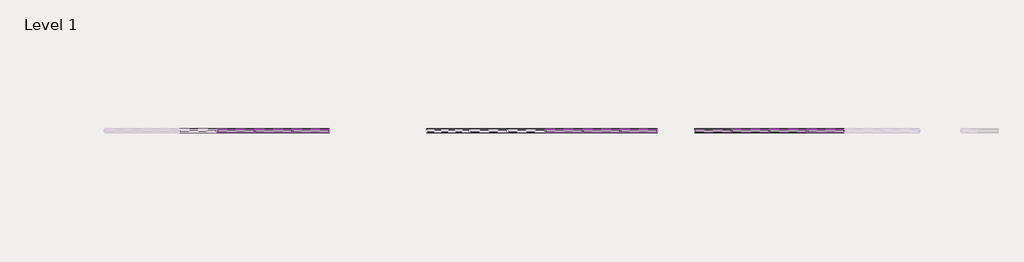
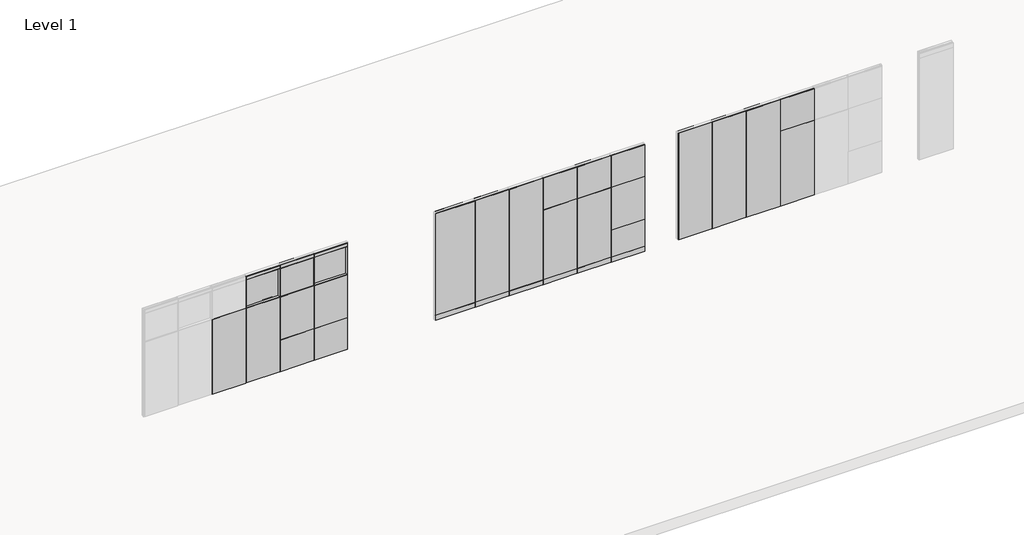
# One storey, part 15 of 22: 104 proxies.
"""IFC4 building model written with IfcOpenShell, lengths in millimetres."""

from ifc_helpers import new_model, si_unit, origin, place, context, project, spatial, transform, mapped, element, save
from components import fascia_teknion_ceiling_and_base_fpb1_33541465, fascia_teknion_ceiling_and_base_fpb1_cfc01414, fascia_teknion_ceiling_and_base_fpb1_a659cb20, fascia_teknion_ceiling_and_base_fpb1_658eb9e8, fascia_teknion_ceiling_and_base_fpb1_dc8595db, fascia_teknion_ceiling_and_base_fpb1_8b8bf328, fascia_teknion_ceiling_and_base_fpb1_c09701a2, fascia_teknion_ceiling_and_base_fpb1_cd47c96b, fascia_teknion_ceiling_and_base_fpc_0fdf7194, fascia_teknion_ceiling_and_base_fpc_b0ac7cd3, frame_teknion_horizontal_rail_5872ae1a, frame_teknion_horizontal_rail_46ee653b, frame_teknion_horizontal_rail_915d0f1b, glass_fascia_74ba01bb, glass_fascia_b43ce2ad, glass_fascia_649ace3c, level_ii_d92933f0, level_ii_5838736d, level_ii_d9937d3a, level_ii_09c6d2e8, level_ii_766fe766, level_ii_d745e7d9, level_ii_52e50c64, monolithic_level_i_61e75e15, monolithic_level_i_13c59c03, monolithic_level_i_604a00d2, monolithic_level_i_9525b381, monolithic_level_i_5f1d8d04, monolithic_level_i_f301c96f, monolithic_level_i_8e8b46f9, segmented_monolithic_level_i_26a9d159, segmented_monolithic_level_i_932c30e3, segmented_monolithic_level_i_a660c2bd, segmented_monolithic_level_i_f0d80afd, segmented_monolithic_level_i_954095a9, segmented_monolithic_level_ii_ef75357c, segmented_monolithic_level_ii_062cb124, working_wall_monolithic_level_i_dc7e04ae, working_wall_monolithic_level_i_f3196e79, working_wall_monolithic_level_i_c6955959, working_wall_monolithic_level_i_9d4bea93, working_wall_monolithic_level_i_ddf61f7f, working_wall_monolithic_level_i_49ea217e, working_wall_monolithic_level_i_39047d6b, working_wall_monolithic_level_iii_b79156b4, working_wall_monolithic_level_iii_e35548a4

model = new_model("IFC4")

# Units and contexts
model_context = context("Model", 3, world=origin())
ifc_project = project(units=[si_unit("LENGTHUNIT", "METRE", prefix="MILLI")], contexts=[model_context])

# Site, building, storey
site = spatial("IfcSite", under=ifc_project)
building = spatial("IfcBuilding", under=site)
storey = spatial("IfcBuildingStorey", under=building, Name="Level 1", Elevation=0.0)

# Proxies
placement = place(None, origin())
fascia_teknion_ceiling_and_base_fpb1_shape = fascia_teknion_ceiling_and_base_fpb1_33541465(model_context)
element("IfcBuildingElementProxy", 1, Name="Fascia-Teknion-Ceiling_and_Base : FPB1", ObjectType="Fascia-Teknion-Ceiling_and_Base : FPB1", at=placement, inside=storey, context=model_context, shape_type="MappedRepresentation", body=[
    mapped(fascia_teknion_ceiling_and_base_fpb1_shape, transform((56550.0272772, 1843.3402105, 15.875), x_axis=(1.0, 0.0, 0.0), y_axis=(0.0, 1.0, 0.0), z_axis=(0.0, 0.0, 1.0))),
])
fascia_teknion_ceiling_and_base_fpb1_2_shape = fascia_teknion_ceiling_and_base_fpb1_cfc01414(model_context)
element("IfcBuildingElementProxy", 2, Name="Fascia-Teknion-Ceiling_and_Base : FPB1", ObjectType="Fascia-Teknion-Ceiling_and_Base : FPB1", at=placement, inside=storey, context=model_context, shape_type="MappedRepresentation", body=[
    mapped(fascia_teknion_ceiling_and_base_fpb1_2_shape, transform((56550.0272772, 1781.3642105, 15.875), x_axis=(1.0, 0.0, 0.0), y_axis=(0.0, 1.0, 0.0), z_axis=(0.0, 0.0, 1.0))),
])
fascia_teknion_ceiling_and_base_fpb1_3_shape = fascia_teknion_ceiling_and_base_fpb1_a659cb20(model_context)
element("IfcBuildingElementProxy", 3, Name="Fascia-Teknion-Ceiling_and_Base : FPB1", ObjectType="Fascia-Teknion-Ceiling_and_Base : FPB1", at=placement, inside=storey, context=model_context, shape_type="MappedRepresentation", body=[
    mapped(fascia_teknion_ceiling_and_base_fpb1_3_shape, transform((54728.2221991, 1843.3402105, 15.875), x_axis=(1.0, 0.0, 0.0), y_axis=(0.0, 1.0, 0.0), z_axis=(0.0, 0.0, 1.0))),
])
element("IfcBuildingElementProxy", 4, Name="Fascia-Teknion-Ceiling_and_Base : FPB1", ObjectType="Fascia-Teknion-Ceiling_and_Base : FPB1", at=placement, inside=storey, context=model_context, shape_type="MappedRepresentation", body=[
    mapped(fascia_teknion_ceiling_and_base_fpb1_3_shape, transform((55642.6221991, 1843.3402105, 15.875), x_axis=(1.0, 0.0, 0.0), y_axis=(0.0, 1.0, 0.0), z_axis=(0.0, 0.0, 1.0))),
])
element("IfcBuildingElementProxy", 5, Name="Fascia-Teknion-Ceiling_and_Base : FPB1", ObjectType="Fascia-Teknion-Ceiling_and_Base : FPB1", at=placement, inside=storey, context=model_context, shape_type="MappedRepresentation", body=[
    mapped(fascia_teknion_ceiling_and_base_fpb1_3_shape, transform((52899.4221991, 1843.3402105, 15.875), x_axis=(1.0, 0.0, 0.0), y_axis=(0.0, 1.0, 0.0), z_axis=(0.0, 0.0, 1.0))),
])
element("IfcBuildingElementProxy", 6, Name="Fascia-Teknion-Ceiling_and_Base : FPB1", ObjectType="Fascia-Teknion-Ceiling_and_Base : FPB1", at=placement, inside=storey, context=model_context, shape_type="MappedRepresentation", body=[
    mapped(fascia_teknion_ceiling_and_base_fpb1_3_shape, transform((53813.8221991, 1843.3402105, 15.875), x_axis=(1.0, 0.0, 0.0), y_axis=(0.0, 1.0, 0.0), z_axis=(0.0, 0.0, 1.0))),
])
fascia_teknion_ceiling_and_base_fpb1_4_shape = fascia_teknion_ceiling_and_base_fpb1_658eb9e8(model_context)
element("IfcBuildingElementProxy", 7, Name="Fascia-Teknion-Ceiling_and_Base : FPB1", ObjectType="Fascia-Teknion-Ceiling_and_Base : FPB1", at=placement, inside=storey, context=model_context, shape_type="MappedRepresentation", body=[
    mapped(fascia_teknion_ceiling_and_base_fpb1_4_shape, transform((54728.2221991, 1781.3642105, 15.875), x_axis=(1.0, 0.0, 0.0), y_axis=(0.0, 1.0, 0.0), z_axis=(0.0, 0.0, 1.0))),
])
element("IfcBuildingElementProxy", 8, Name="Fascia-Teknion-Ceiling_and_Base : FPB1", ObjectType="Fascia-Teknion-Ceiling_and_Base : FPB1", at=placement, inside=storey, context=model_context, shape_type="MappedRepresentation", body=[
    mapped(fascia_teknion_ceiling_and_base_fpb1_4_shape, transform((55642.6221991, 1781.3642105, 15.875), x_axis=(1.0, 0.0, 0.0), y_axis=(0.0, 1.0, 0.0), z_axis=(0.0, 0.0, 1.0))),
])
element("IfcBuildingElementProxy", 9, Name="Fascia-Teknion-Ceiling_and_Base : FPB1", ObjectType="Fascia-Teknion-Ceiling_and_Base : FPB1", at=placement, inside=storey, context=model_context, shape_type="MappedRepresentation", body=[
    mapped(fascia_teknion_ceiling_and_base_fpb1_4_shape, transform((52899.4221991, 1781.3642105, 15.875), x_axis=(1.0, 0.0, 0.0), y_axis=(0.0, 1.0, 0.0), z_axis=(0.0, 0.0, 1.0))),
])
element("IfcBuildingElementProxy", 10, Name="Fascia-Teknion-Ceiling_and_Base : FPB1", ObjectType="Fascia-Teknion-Ceiling_and_Base : FPB1", at=placement, inside=storey, context=model_context, shape_type="MappedRepresentation", body=[
    mapped(fascia_teknion_ceiling_and_base_fpb1_4_shape, transform((53813.8221991, 1781.3642105, 15.875), x_axis=(1.0, 0.0, 0.0), y_axis=(0.0, 1.0, 0.0), z_axis=(0.0, 0.0, 1.0))),
])
fascia_teknion_ceiling_and_base_fpb1_5_shape = fascia_teknion_ceiling_and_base_fpb1_dc8595db(model_context)
element("IfcBuildingElementProxy", 11, Name="Fascia-Teknion-Ceiling_and_Base : FPB1", ObjectType="Fascia-Teknion-Ceiling_and_Base : FPB1", at=placement, inside=storey, context=model_context, shape_type="MappedRepresentation", body=[
    mapped(fascia_teknion_ceiling_and_base_fpb1_5_shape, transform((51915.817121, 1781.3642105, 15.875), x_axis=(1.0, 0.0, 0.0), y_axis=(0.0, 1.0, 0.0), z_axis=(0.0, 0.0, 1.0))),
])
fascia_teknion_ceiling_and_base_fpb1_6_shape = fascia_teknion_ceiling_and_base_fpb1_8b8bf328(model_context)
element("IfcBuildingElementProxy", 12, Name="Fascia-Teknion-Ceiling_and_Base : FPB1", ObjectType="Fascia-Teknion-Ceiling_and_Base : FPB1", at=placement, inside=storey, context=model_context, shape_type="MappedRepresentation", body=[
    mapped(fascia_teknion_ceiling_and_base_fpb1_6_shape, transform((51915.817121, 1843.3402105, 15.875), x_axis=(1.0, 0.0, 0.0), y_axis=(0.0, 1.0, 0.0), z_axis=(0.0, 0.0, 1.0))),
])
fascia_teknion_ceiling_and_base_fpb1_7_shape = fascia_teknion_ceiling_and_base_fpb1_c09701a2(model_context)
element("IfcBuildingElementProxy", 13, Name="Fascia-Teknion-Ceiling_and_Base : FPC", ObjectType="Fascia-Teknion-Ceiling_and_Base : FPC", at=placement, inside=storey, context=model_context, shape_type="MappedRepresentation", body=[
    mapped(fascia_teknion_ceiling_and_base_fpb1_7_shape, transform((48570.2009696, 1781.3642105, 2950.845), x_axis=(1.0, 0.0, 0.0), y_axis=(0.0, 1.0, 0.0), z_axis=(0.0, 0.0, 1.0))),
])
fascia_teknion_ceiling_and_base_fpb1_8_shape = fascia_teknion_ceiling_and_base_fpb1_cd47c96b(model_context)
element("IfcBuildingElementProxy", 14, Name="Fascia-Teknion-Ceiling_and_Base : FPC", ObjectType="Fascia-Teknion-Ceiling_and_Base : FPC", at=placement, inside=storey, context=model_context, shape_type="MappedRepresentation", body=[
    mapped(fascia_teknion_ceiling_and_base_fpb1_8_shape, transform((48570.2009696, 1843.3402105, 2950.845), x_axis=(1.0, 0.0, 0.0), y_axis=(0.0, 1.0, 0.0), z_axis=(0.0, 0.0, 1.0))),
])
fascia_teknion_ceiling_and_base_fpc_shape = fascia_teknion_ceiling_and_base_fpc_0fdf7194(model_context)
element("IfcBuildingElementProxy", 15, Name="Fascia-Teknion-Ceiling_and_Base : FPC", ObjectType="Fascia-Teknion-Ceiling_and_Base : FPC", at=placement, inside=storey, context=model_context, shape_type="MappedRepresentation", body=[
    mapped(fascia_teknion_ceiling_and_base_fpc_shape, transform((47662.7958915, 1781.3642105, 2950.845), x_axis=(1.0, 0.0, 0.0), y_axis=(0.0, 1.0, 0.0), z_axis=(0.0, 0.0, 1.0))),
])
element("IfcBuildingElementProxy", 16, Name="Fascia-Teknion-Ceiling_and_Base : FPC", ObjectType="Fascia-Teknion-Ceiling_and_Base : FPC", at=placement, inside=storey, context=model_context, shape_type="MappedRepresentation", body=[
    mapped(fascia_teknion_ceiling_and_base_fpc_shape, transform((46748.3958915, 1781.3642105, 2950.845), x_axis=(1.0, 0.0, 0.0), y_axis=(0.0, 1.0, 0.0), z_axis=(0.0, 0.0, 1.0))),
])
fascia_teknion_ceiling_and_base_fpc_2_shape = fascia_teknion_ceiling_and_base_fpc_b0ac7cd3(model_context)
element("IfcBuildingElementProxy", 17, Name="Fascia-Teknion-Ceiling_and_Base : FPC", ObjectType="Fascia-Teknion-Ceiling_and_Base : FPC", at=placement, inside=storey, context=model_context, shape_type="MappedRepresentation", body=[
    mapped(fascia_teknion_ceiling_and_base_fpc_2_shape, transform((47662.7958915, 1843.3402105, 2950.845), x_axis=(1.0, 0.0, 0.0), y_axis=(0.0, 1.0, 0.0), z_axis=(0.0, 0.0, 1.0))),
])
element("IfcBuildingElementProxy", 18, Name="Fascia-Teknion-Ceiling_and_Base : FPC", ObjectType="Fascia-Teknion-Ceiling_and_Base : FPC", at=placement, inside=storey, context=model_context, shape_type="MappedRepresentation", body=[
    mapped(fascia_teknion_ceiling_and_base_fpc_2_shape, transform((46748.3958915, 1843.3402105, 2950.845), x_axis=(1.0, 0.0, 0.0), y_axis=(0.0, 1.0, 0.0), z_axis=(0.0, 0.0, 1.0))),
])
frame_teknion_horizontal_rail_shape = frame_teknion_horizontal_rail_5872ae1a(model_context)
element("IfcBuildingElementProxy", 19, Name="Frame-Teknion-Horizontal_Rail : FPKK", ObjectType="Frame-Teknion-Horizontal_Rail : FPKK", at=placement, inside=storey, context=model_context, shape_type="MappedRepresentation", body=[
    mapped(frame_teknion_horizontal_rail_shape, transform((56550.0272772, 1812.3522105, 917.575), x_axis=(1.0, 0.0, 0.0), y_axis=(0.0, 1.0, 0.0), z_axis=(0.0, 0.0, 1.0))),
])
element("IfcBuildingElementProxy", 20, Name="Frame-Teknion-Horizontal_Rail : FPKK", ObjectType="Frame-Teknion-Horizontal_Rail : FPKK", at=placement, inside=storey, context=model_context, shape_type="MappedRepresentation", body=[
    mapped(frame_teknion_horizontal_rail_shape, transform((56550.0272772, 1812.3522105, 151.257), x_axis=(1.0, 0.0, 0.0), y_axis=(0.0, 1.0, 0.0), z_axis=(0.0, 0.0, 1.0))),
])
element("IfcBuildingElementProxy", 21, Name="Frame-Teknion-Horizontal_Rail : FPKK", ObjectType="Frame-Teknion-Horizontal_Rail : FPKK", at=placement, inside=storey, context=model_context, shape_type="MappedRepresentation", body=[
    mapped(frame_teknion_horizontal_rail_shape, transform((56550.0272772, 1812.3522105, 2136.775), x_axis=(1.0, 0.0, 0.0), y_axis=(0.0, 1.0, 0.0), z_axis=(0.0, 0.0, 1.0))),
])
element("IfcBuildingElementProxy", 22, Name="Frame-Teknion-Horizontal_Rail : FPKK", ObjectType="Frame-Teknion-Horizontal_Rail : FPKK", at=placement, inside=storey, context=model_context, shape_type="MappedRepresentation", body=[
    mapped(frame_teknion_horizontal_rail_shape, transform((58362.0641382, 1812.3522105, 2136.775), x_axis=(1.0, 0.0, 0.0), y_axis=(0.0, 1.0, 0.0), z_axis=(0.0, 0.0, 1.0))),
])
element("IfcBuildingElementProxy", 23, Name="Frame-Teknion-Horizontal_Rail : FPKK", ObjectType="Frame-Teknion-Horizontal_Rail : FPKK", at=placement, inside=storey, context=model_context, shape_type="MappedRepresentation", body=[
    mapped(frame_teknion_horizontal_rail_shape, transform((58362.0641382, 1812.3522105, 151.257), x_axis=(1.0, 0.0, 0.0), y_axis=(0.0, 1.0, 0.0), z_axis=(0.0, 0.0, 1.0))),
])
element("IfcBuildingElementProxy", 24, Name="Frame-Teknion-Horizontal_Rail : FPKK", ObjectType="Frame-Teknion-Horizontal_Rail : FPKK", at=placement, inside=storey, context=model_context, shape_type="MappedRepresentation", body=[
    mapped(frame_teknion_horizontal_rail_shape, transform((58362.0641382, 1812.3522105, 2898.3305), x_axis=(1.0, 0.0, 0.0), y_axis=(0.0, 1.0, 0.0), z_axis=(0.0, 0.0, 1.0))),
])
element("IfcBuildingElementProxy", 25, Name="Frame-Teknion-Horizontal_Rail : FPKK", ObjectType="Frame-Teknion-Horizontal_Rail : FPKK", at=placement, inside=storey, context=model_context, shape_type="MappedRepresentation", body=[
    mapped(frame_teknion_horizontal_rail_shape, transform((48570.2009696, 1812.3522105, 2136.775), x_axis=(1.0, 0.0, 0.0), y_axis=(0.0, 1.0, 0.0), z_axis=(0.0, 0.0, 1.0))),
])
element("IfcBuildingElementProxy", 26, Name="Frame-Teknion-Horizontal_Rail : FPKK", ObjectType="Frame-Teknion-Horizontal_Rail : FPKK", at=placement, inside=storey, context=model_context, shape_type="MappedRepresentation", body=[
    mapped(frame_teknion_horizontal_rail_shape, transform((48570.2009696, 1812.3522105, 2949.1305), x_axis=(1.0, 0.0, 0.0), y_axis=(0.0, 1.0, 0.0), z_axis=(0.0, 0.0, 1.0))),
])
element("IfcBuildingElementProxy", 27, Name="Frame-Teknion-Horizontal_Rail : FPKK", ObjectType="Frame-Teknion-Horizontal_Rail : FPKK", at=placement, inside=storey, context=model_context, shape_type="MappedRepresentation", body=[
    mapped(frame_teknion_horizontal_rail_shape, transform((48570.2009696, 1812.3522105, 917.575), x_axis=(1.0, 0.0, 0.0), y_axis=(0.0, 1.0, 0.0), z_axis=(0.0, 0.0, 1.0))),
])
frame_teknion_horizontal_rail_2_shape = frame_teknion_horizontal_rail_46ee653b(model_context)
element("IfcBuildingElementProxy", 28, Name="Frame-Teknion-Horizontal_Rail : FPKK", ObjectType="Frame-Teknion-Horizontal_Rail : FPKK", at=placement, inside=storey, context=model_context, shape_type="MappedRepresentation", body=[
    mapped(frame_teknion_horizontal_rail_2_shape, transform((52899.4221991, 1812.3522105, 917.575), x_axis=(1.0, 0.0, 0.0), y_axis=(0.0, 1.0, 0.0), z_axis=(0.0, 0.0, 1.0))),
])
element("IfcBuildingElementProxy", 29, Name="Frame-Teknion-Horizontal_Rail : FPKK", ObjectType="Frame-Teknion-Horizontal_Rail : FPKK", at=placement, inside=storey, context=model_context, shape_type="MappedRepresentation", body=[
    mapped(frame_teknion_horizontal_rail_2_shape, transform((52899.4221991, 1812.3522105, 151.257), x_axis=(1.0, 0.0, 0.0), y_axis=(0.0, 1.0, 0.0), z_axis=(0.0, 0.0, 1.0))),
])
element("IfcBuildingElementProxy", 30, Name="Frame-Teknion-Horizontal_Rail : FPKK", ObjectType="Frame-Teknion-Horizontal_Rail : FPKK", at=placement, inside=storey, context=model_context, shape_type="MappedRepresentation", body=[
    mapped(frame_teknion_horizontal_rail_2_shape, transform((53813.8221991, 1812.3522105, 917.575), x_axis=(1.0, 0.0, 0.0), y_axis=(0.0, 1.0, 0.0), z_axis=(0.0, 0.0, 1.0))),
])
element("IfcBuildingElementProxy", 31, Name="Frame-Teknion-Horizontal_Rail : FPKK", ObjectType="Frame-Teknion-Horizontal_Rail : FPKK", at=placement, inside=storey, context=model_context, shape_type="MappedRepresentation", body=[
    mapped(frame_teknion_horizontal_rail_2_shape, transform((53813.8221991, 1812.3522105, 151.257), x_axis=(1.0, 0.0, 0.0), y_axis=(0.0, 1.0, 0.0), z_axis=(0.0, 0.0, 1.0))),
])
element("IfcBuildingElementProxy", 32, Name="Frame-Teknion-Horizontal_Rail : FPKK", ObjectType="Frame-Teknion-Horizontal_Rail : FPKK", at=placement, inside=storey, context=model_context, shape_type="MappedRepresentation", body=[
    mapped(frame_teknion_horizontal_rail_2_shape, transform((54728.2221991, 1812.3522105, 151.257), x_axis=(1.0, 0.0, 0.0), y_axis=(0.0, 1.0, 0.0), z_axis=(0.0, 0.0, 1.0))),
])
element("IfcBuildingElementProxy", 33, Name="Frame-Teknion-Horizontal_Rail : FPKK", ObjectType="Frame-Teknion-Horizontal_Rail : FPKK", at=placement, inside=storey, context=model_context, shape_type="MappedRepresentation", body=[
    mapped(frame_teknion_horizontal_rail_2_shape, transform((55642.6221991, 1812.3522105, 151.257), x_axis=(1.0, 0.0, 0.0), y_axis=(0.0, 1.0, 0.0), z_axis=(0.0, 0.0, 1.0))),
])
element("IfcBuildingElementProxy", 34, Name="Frame-Teknion-Horizontal_Rail : FPKK", ObjectType="Frame-Teknion-Horizontal_Rail : FPKK", at=placement, inside=storey, context=model_context, shape_type="MappedRepresentation", body=[
    mapped(frame_teknion_horizontal_rail_2_shape, transform((54728.2221991, 1812.3522105, 2136.775), x_axis=(1.0, 0.0, 0.0), y_axis=(0.0, 1.0, 0.0), z_axis=(0.0, 0.0, 1.0))),
])
element("IfcBuildingElementProxy", 35, Name="Frame-Teknion-Horizontal_Rail : FPKK", ObjectType="Frame-Teknion-Horizontal_Rail : FPKK", at=placement, inside=storey, context=model_context, shape_type="MappedRepresentation", body=[
    mapped(frame_teknion_horizontal_rail_2_shape, transform((55642.6221991, 1812.3522105, 2136.775), x_axis=(1.0, 0.0, 0.0), y_axis=(0.0, 1.0, 0.0), z_axis=(0.0, 0.0, 1.0))),
])
element("IfcBuildingElementProxy", 36, Name="Frame-Teknion-Horizontal_Rail : FPKK", ObjectType="Frame-Teknion-Horizontal_Rail : FPKK", at=placement, inside=storey, context=model_context, shape_type="MappedRepresentation", body=[
    mapped(frame_teknion_horizontal_rail_2_shape, transform((59269.4692163, 1812.3522105, 2136.775), x_axis=(1.0, 0.0, 0.0), y_axis=(0.0, 1.0, 0.0), z_axis=(0.0, 0.0, 1.0))),
])
element("IfcBuildingElementProxy", 37, Name="Frame-Teknion-Horizontal_Rail : FPKK", ObjectType="Frame-Teknion-Horizontal_Rail : FPKK", at=placement, inside=storey, context=model_context, shape_type="MappedRepresentation", body=[
    mapped(frame_teknion_horizontal_rail_2_shape, transform((59269.4692163, 1812.3522105, 151.257), x_axis=(1.0, 0.0, 0.0), y_axis=(0.0, 1.0, 0.0), z_axis=(0.0, 0.0, 1.0))),
])
element("IfcBuildingElementProxy", 38, Name="Frame-Teknion-Horizontal_Rail : FPKK", ObjectType="Frame-Teknion-Horizontal_Rail : FPKK", at=placement, inside=storey, context=model_context, shape_type="MappedRepresentation", body=[
    mapped(frame_teknion_horizontal_rail_2_shape, transform((59269.4692163, 1812.3522105, 2898.3305), x_axis=(1.0, 0.0, 0.0), y_axis=(0.0, 1.0, 0.0), z_axis=(0.0, 0.0, 1.0))),
])
element("IfcBuildingElementProxy", 39, Name="Frame-Teknion-Horizontal_Rail : FPKK", ObjectType="Frame-Teknion-Horizontal_Rail : FPKK", at=placement, inside=storey, context=model_context, shape_type="MappedRepresentation", body=[
    mapped(frame_teknion_horizontal_rail_2_shape, transform((60183.8692163, 1812.3522105, 2136.775), x_axis=(1.0, 0.0, 0.0), y_axis=(0.0, 1.0, 0.0), z_axis=(0.0, 0.0, 1.0))),
])
element("IfcBuildingElementProxy", 40, Name="Frame-Teknion-Horizontal_Rail : FPKK", ObjectType="Frame-Teknion-Horizontal_Rail : FPKK", at=placement, inside=storey, context=model_context, shape_type="MappedRepresentation", body=[
    mapped(frame_teknion_horizontal_rail_2_shape, transform((60183.8692163, 1812.3522105, 151.257), x_axis=(1.0, 0.0, 0.0), y_axis=(0.0, 1.0, 0.0), z_axis=(0.0, 0.0, 1.0))),
])
element("IfcBuildingElementProxy", 41, Name="Frame-Teknion-Horizontal_Rail : FPKK", ObjectType="Frame-Teknion-Horizontal_Rail : FPKK", at=placement, inside=storey, context=model_context, shape_type="MappedRepresentation", body=[
    mapped(frame_teknion_horizontal_rail_2_shape, transform((60183.8692163, 1812.3522105, 2898.3305), x_axis=(1.0, 0.0, 0.0), y_axis=(0.0, 1.0, 0.0), z_axis=(0.0, 0.0, 1.0))),
])
element("IfcBuildingElementProxy", 42, Name="Frame-Teknion-Horizontal_Rail : FPKK", ObjectType="Frame-Teknion-Horizontal_Rail : FPKK", at=placement, inside=storey, context=model_context, shape_type="MappedRepresentation", body=[
    mapped(frame_teknion_horizontal_rail_2_shape, transform((61098.2692163, 1812.3522105, 2136.775), x_axis=(1.0, 0.0, 0.0), y_axis=(0.0, 1.0, 0.0), z_axis=(0.0, 0.0, 1.0))),
])
element("IfcBuildingElementProxy", 43, Name="Frame-Teknion-Horizontal_Rail : FPKK", ObjectType="Frame-Teknion-Horizontal_Rail : FPKK", at=placement, inside=storey, context=model_context, shape_type="MappedRepresentation", body=[
    mapped(frame_teknion_horizontal_rail_2_shape, transform((61098.2692163, 1812.3522105, 151.257), x_axis=(1.0, 0.0, 0.0), y_axis=(0.0, 1.0, 0.0), z_axis=(0.0, 0.0, 1.0))),
])
element("IfcBuildingElementProxy", 44, Name="Frame-Teknion-Horizontal_Rail : FPKK", ObjectType="Frame-Teknion-Horizontal_Rail : FPKK", at=placement, inside=storey, context=model_context, shape_type="MappedRepresentation", body=[
    mapped(frame_teknion_horizontal_rail_2_shape, transform((61098.2692163, 1812.3522105, 2898.3305), x_axis=(1.0, 0.0, 0.0), y_axis=(0.0, 1.0, 0.0), z_axis=(0.0, 0.0, 1.0))),
])
element("IfcBuildingElementProxy", 45, Name="Frame-Teknion-Horizontal_Rail : FPKK", ObjectType="Frame-Teknion-Horizontal_Rail : FPKK", at=placement, inside=storey, context=model_context, shape_type="MappedRepresentation", body=[
    mapped(frame_teknion_horizontal_rail_2_shape, transform((60183.8692163, 1812.3522105, 917.575), x_axis=(1.0, 0.0, 0.0), y_axis=(0.0, 1.0, 0.0), z_axis=(0.0, 0.0, 1.0))),
])
element("IfcBuildingElementProxy", 46, Name="Frame-Teknion-Horizontal_Rail : FPKK", ObjectType="Frame-Teknion-Horizontal_Rail : FPKK", at=placement, inside=storey, context=model_context, shape_type="MappedRepresentation", body=[
    mapped(frame_teknion_horizontal_rail_2_shape, transform((47662.7958915, 1812.3522105, 2136.775), x_axis=(1.0, 0.0, 0.0), y_axis=(0.0, 1.0, 0.0), z_axis=(0.0, 0.0, 1.0))),
])
element("IfcBuildingElementProxy", 47, Name="Frame-Teknion-Horizontal_Rail : FPKK", ObjectType="Frame-Teknion-Horizontal_Rail : FPKK", at=placement, inside=storey, context=model_context, shape_type="MappedRepresentation", body=[
    mapped(frame_teknion_horizontal_rail_2_shape, transform((47662.7958915, 1812.3522105, 2949.1305), x_axis=(1.0, 0.0, 0.0), y_axis=(0.0, 1.0, 0.0), z_axis=(0.0, 0.0, 1.0))),
])
element("IfcBuildingElementProxy", 48, Name="Frame-Teknion-Horizontal_Rail : FPKK", ObjectType="Frame-Teknion-Horizontal_Rail : FPKK", at=placement, inside=storey, context=model_context, shape_type="MappedRepresentation", body=[
    mapped(frame_teknion_horizontal_rail_2_shape, transform((46748.3958915, 1812.3522105, 2136.775), x_axis=(1.0, 0.0, 0.0), y_axis=(0.0, 1.0, 0.0), z_axis=(0.0, 0.0, 1.0))),
])
element("IfcBuildingElementProxy", 49, Name="Frame-Teknion-Horizontal_Rail : FPKK", ObjectType="Frame-Teknion-Horizontal_Rail : FPKK", at=placement, inside=storey, context=model_context, shape_type="MappedRepresentation", body=[
    mapped(frame_teknion_horizontal_rail_2_shape, transform((46748.3958915, 1812.3522105, 2949.1305), x_axis=(1.0, 0.0, 0.0), y_axis=(0.0, 1.0, 0.0), z_axis=(0.0, 0.0, 1.0))),
])
element("IfcBuildingElementProxy", 50, Name="Frame-Teknion-Horizontal_Rail : FPKK", ObjectType="Frame-Teknion-Horizontal_Rail : FPKK", at=placement, inside=storey, context=model_context, shape_type="MappedRepresentation", body=[
    mapped(frame_teknion_horizontal_rail_2_shape, transform((45833.9958915, 1812.3522105, 917.575), x_axis=(1.0, 0.0, 0.0), y_axis=(0.0, 1.0, 0.0), z_axis=(0.0, 0.0, 1.0))),
])
element("IfcBuildingElementProxy", 51, Name="Frame-Teknion-Horizontal_Rail : FPKK", ObjectType="Frame-Teknion-Horizontal_Rail : FPKK", at=placement, inside=storey, context=model_context, shape_type="MappedRepresentation", body=[
    mapped(frame_teknion_horizontal_rail_2_shape, transform((46748.3958915, 1812.3522105, 917.575), x_axis=(1.0, 0.0, 0.0), y_axis=(0.0, 1.0, 0.0), z_axis=(0.0, 0.0, 1.0))),
])
element("IfcBuildingElementProxy", 52, Name="Frame-Teknion-Horizontal_Rail : FPKK", ObjectType="Frame-Teknion-Horizontal_Rail : FPKK", at=placement, inside=storey, context=model_context, shape_type="MappedRepresentation", body=[
    mapped(frame_teknion_horizontal_rail_2_shape, transform((47662.7958915, 1812.3522105, 917.575), x_axis=(1.0, 0.0, 0.0), y_axis=(0.0, 1.0, 0.0), z_axis=(0.0, 0.0, 1.0))),
])
frame_teknion_horizontal_rail_3_shape = frame_teknion_horizontal_rail_915d0f1b(model_context)
element("IfcBuildingElementProxy", 53, Name="Frame-Teknion-Horizontal_Rail : FPKK", ObjectType="Frame-Teknion-Horizontal_Rail : FPKK", at=placement, inside=storey, context=model_context, shape_type="MappedRepresentation", body=[
    mapped(frame_teknion_horizontal_rail_3_shape, transform((51915.817121, 1812.3522105, 917.575), x_axis=(1.0, 0.0, 0.0), y_axis=(0.0, 1.0, 0.0), z_axis=(0.0, 0.0, 1.0))),
])
element("IfcBuildingElementProxy", 54, Name="Frame-Teknion-Horizontal_Rail : FPKK", ObjectType="Frame-Teknion-Horizontal_Rail : FPKK", at=placement, inside=storey, context=model_context, shape_type="MappedRepresentation", body=[
    mapped(frame_teknion_horizontal_rail_3_shape, transform((51915.817121, 1812.3522105, 151.257), x_axis=(1.0, 0.0, 0.0), y_axis=(0.0, 1.0, 0.0), z_axis=(0.0, 0.0, 1.0))),
])
glass_fascia_shape = glass_fascia_74ba01bb(model_context)
element("IfcBuildingElementProxy", 55, Name="Panel-Fascia-Teknion-Altos-Glass : Glass Fascia", ObjectType="Panel-Fascia-Teknion-Altos-Glass : Glass Fascia", at=placement, inside=storey, context=model_context, shape_type="MappedRepresentation", body=[
    mapped(glass_fascia_shape, transform((48570.2009696, 1812.3522105, 2136.775), x_axis=(1.0, 0.0, 0.0), y_axis=(0.0, 1.0, 0.0), z_axis=(0.0, 0.0, 1.0))),
])
glass_fascia_2_shape = glass_fascia_b43ce2ad(model_context)
element("IfcBuildingElementProxy", 56, Name="Panel-Fascia-Teknion-Altos-Glass : Glass Fascia", ObjectType="Panel-Fascia-Teknion-Altos-Glass : Glass Fascia", at=placement, inside=storey, context=model_context, shape_type="MappedRepresentation", body=[
    mapped(glass_fascia_2_shape, transform((47662.7958915, 1812.3522105, 2136.775), x_axis=(1.0, 0.0, 0.0), y_axis=(0.0, 1.0, 0.0), z_axis=(0.0, 0.0, 1.0))),
])
glass_fascia_3_shape = glass_fascia_649ace3c(model_context)
element("IfcBuildingElementProxy", 57, Name="Panel-Fascia-Teknion-Altos-Glass : Glass Fascia", ObjectType="Panel-Fascia-Teknion-Altos-Glass : Glass Fascia", at=placement, inside=storey, context=model_context, shape_type="MappedRepresentation", body=[
    mapped(glass_fascia_3_shape, transform((46748.3958915, 1812.3522105, 2136.775), x_axis=(1.0, 0.0, 0.0), y_axis=(0.0, 1.0, 0.0), z_axis=(0.0, 0.0, 1.0))),
])
level_ii_shape = level_ii_d92933f0(model_context)
element("IfcBuildingElementProxy", 58, Name="Panel-Fascia-Teknion-Altos-Standard : Level II", ObjectType="Panel-Fascia-Teknion-Altos-Standard : Level II", at=placement, inside=storey, context=model_context, shape_type="MappedRepresentation", body=[
    mapped(level_ii_shape, transform((56550.0272772, 1852.8652105, 917.575), x_axis=(1.0, 0.0, 0.0), y_axis=(0.0, 1.0, 0.0), z_axis=(0.0, 0.0, 1.0))),
])
level_ii_2_shape = level_ii_5838736d(model_context)
element("IfcBuildingElementProxy", 59, Name="Panel-Fascia-Teknion-Altos-Standard : Level II", ObjectType="Panel-Fascia-Teknion-Altos-Standard : Level II", at=placement, inside=storey, context=model_context, shape_type="MappedRepresentation", body=[
    mapped(level_ii_2_shape, transform((60183.8692163, 1852.8652105, 917.575), x_axis=(1.0, 0.0, 0.0), y_axis=(0.0, 1.0, 0.0), z_axis=(0.0, 0.0, 1.0))),
])
level_ii_3_shape = level_ii_d9937d3a(model_context)
element("IfcBuildingElementProxy", 60, Name="Panel-Fascia-Teknion-Altos-Standard : Level II", ObjectType="Panel-Fascia-Teknion-Altos-Standard : Level II", at=placement, inside=storey, context=model_context, shape_type="MappedRepresentation", body=[
    mapped(level_ii_3_shape, transform((56550.0272772, 1771.8392105, 917.575), x_axis=(1.0, 0.0, 0.0), y_axis=(0.0, 1.0, 0.0), z_axis=(0.0, 0.0, 1.0))),
])
level_ii_4_shape = level_ii_09c6d2e8(model_context)
element("IfcBuildingElementProxy", 61, Name="Panel-Fascia-Teknion-Altos-Standard : Level II", ObjectType="Panel-Fascia-Teknion-Altos-Standard : Level II", at=placement, inside=storey, context=model_context, shape_type="MappedRepresentation", body=[
    mapped(level_ii_4_shape, transform((45833.9958915, 1852.8652105, 917.575), x_axis=(1.0, 0.0, 0.0), y_axis=(0.0, 1.0, 0.0), z_axis=(0.0, 0.0, 1.0))),
])
element("IfcBuildingElementProxy", 62, Name="Panel-Fascia-Teknion-Altos-Standard : Level II", ObjectType="Panel-Fascia-Teknion-Altos-Standard : Level II", at=placement, inside=storey, context=model_context, shape_type="MappedRepresentation", body=[
    mapped(level_ii_4_shape, transform((46748.3958915, 1852.8652105, 917.575), x_axis=(1.0, 0.0, 0.0), y_axis=(0.0, 1.0, 0.0), z_axis=(0.0, 0.0, 1.0))),
])
element("IfcBuildingElementProxy", 63, Name="Panel-Fascia-Teknion-Altos-Standard : Level II", ObjectType="Panel-Fascia-Teknion-Altos-Standard : Level II", at=placement, inside=storey, context=model_context, shape_type="MappedRepresentation", body=[
    mapped(level_ii_4_shape, transform((47662.7958915, 1852.8652105, 917.575), x_axis=(1.0, 0.0, 0.0), y_axis=(0.0, 1.0, 0.0), z_axis=(0.0, 0.0, 1.0))),
])
level_ii_5_shape = level_ii_766fe766(model_context)
element("IfcBuildingElementProxy", 64, Name="Panel-Fascia-Teknion-Altos-Standard : Level II", ObjectType="Panel-Fascia-Teknion-Altos-Standard : Level II", at=placement, inside=storey, context=model_context, shape_type="MappedRepresentation", body=[
    mapped(level_ii_5_shape, transform((48570.2009696, 1771.8392105, 917.575), x_axis=(1.0, 0.0, 0.0), y_axis=(0.0, 1.0, 0.0), z_axis=(0.0, 0.0, 1.0))),
])
level_ii_6_shape = level_ii_d745e7d9(model_context)
element("IfcBuildingElementProxy", 65, Name="Panel-Fascia-Teknion-Altos-Standard : Level II", ObjectType="Panel-Fascia-Teknion-Altos-Standard : Level II", at=placement, inside=storey, context=model_context, shape_type="MappedRepresentation", body=[
    mapped(level_ii_6_shape, transform((48570.2009696, 1852.8652105, 917.575), x_axis=(1.0, 0.0, 0.0), y_axis=(0.0, 1.0, 0.0), z_axis=(0.0, 0.0, 1.0))),
])
level_ii_7_shape = level_ii_52e50c64(model_context)
element("IfcBuildingElementProxy", 66, Name="Panel-Fascia-Teknion-Altos-Standard : Level II", ObjectType="Panel-Fascia-Teknion-Altos-Standard : Level II", at=placement, inside=storey, context=model_context, shape_type="MappedRepresentation", body=[
    mapped(level_ii_7_shape, transform((47662.7958915, 1771.8392105, 917.575), x_axis=(1.0, 0.0, 0.0), y_axis=(0.0, 1.0, 0.0), z_axis=(0.0, 0.0, 1.0))),
])
monolithic_level_i_shape = monolithic_level_i_61e75e15(model_context)
element("IfcBuildingElementProxy", 67, Name="Panel-Fascia-Teknion-Altos-Standard : Monolithic Level I", ObjectType="Panel-Fascia-Teknion-Altos-Standard : Monolithic Level I", at=placement, inside=storey, context=model_context, shape_type="MappedRepresentation", body=[
    mapped(monolithic_level_i_shape, transform((58362.0641382, 1771.8392105, 12.7), x_axis=(1.0, 0.0, 0.0), y_axis=(0.0, 1.0, 0.0), z_axis=(0.0, 0.0, 1.0))),
])
monolithic_level_i_2_shape = monolithic_level_i_13c59c03(model_context)
element("IfcBuildingElementProxy", 68, Name="Panel-Fascia-Teknion-Altos-Standard : Monolithic Level I", ObjectType="Panel-Fascia-Teknion-Altos-Standard : Monolithic Level I", at=placement, inside=storey, context=model_context, shape_type="MappedRepresentation", body=[
    mapped(monolithic_level_i_2_shape, transform((59269.4692163, 1771.8392105, 12.7), x_axis=(1.0, 0.0, 0.0), y_axis=(0.0, 1.0, 0.0), z_axis=(0.0, 0.0, 1.0))),
])
element("IfcBuildingElementProxy", 69, Name="Panel-Fascia-Teknion-Altos-Standard : Monolithic Level I", ObjectType="Panel-Fascia-Teknion-Altos-Standard : Monolithic Level I", at=placement, inside=storey, context=model_context, shape_type="MappedRepresentation", body=[
    mapped(monolithic_level_i_2_shape, transform((60183.8692163, 1771.8392105, 12.7), x_axis=(1.0, 0.0, 0.0), y_axis=(0.0, 1.0, 0.0), z_axis=(0.0, 0.0, 1.0))),
])
monolithic_level_i_3_shape = monolithic_level_i_604a00d2(model_context)
element("IfcBuildingElementProxy", 70, Name="Panel-Fascia-Teknion-Altos-Standard : Monolithic Level I", ObjectType="Panel-Fascia-Teknion-Altos-Standard : Monolithic Level I", at=placement, inside=storey, context=model_context, shape_type="MappedRepresentation", body=[
    mapped(monolithic_level_i_3_shape, transform((52899.4221991, 1771.8392105, 151.257), x_axis=(1.0, 0.0, 0.0), y_axis=(0.0, 1.0, 0.0), z_axis=(0.0, 0.0, 1.0))),
])
element("IfcBuildingElementProxy", 71, Name="Panel-Fascia-Teknion-Altos-Standard : Monolithic Level I", ObjectType="Panel-Fascia-Teknion-Altos-Standard : Monolithic Level I", at=placement, inside=storey, context=model_context, shape_type="MappedRepresentation", body=[
    mapped(monolithic_level_i_3_shape, transform((53813.8221991, 1771.8392105, 151.257), x_axis=(1.0, 0.0, 0.0), y_axis=(0.0, 1.0, 0.0), z_axis=(0.0, 0.0, 1.0))),
])
monolithic_level_i_4_shape = monolithic_level_i_9525b381(model_context)
element("IfcBuildingElementProxy", 72, Name="Panel-Fascia-Teknion-Altos-Standard : Monolithic Level I", ObjectType="Panel-Fascia-Teknion-Altos-Standard : Monolithic Level I", at=placement, inside=storey, context=model_context, shape_type="MappedRepresentation", body=[
    mapped(monolithic_level_i_4_shape, transform((52899.4221991, 1852.8652105, 151.257), x_axis=(1.0, 0.0, 0.0), y_axis=(0.0, 1.0, 0.0), z_axis=(0.0, 0.0, 1.0))),
])
element("IfcBuildingElementProxy", 73, Name="Panel-Fascia-Teknion-Altos-Standard : Monolithic Level I", ObjectType="Panel-Fascia-Teknion-Altos-Standard : Monolithic Level I", at=placement, inside=storey, context=model_context, shape_type="MappedRepresentation", body=[
    mapped(monolithic_level_i_4_shape, transform((53813.8221991, 1852.8652105, 151.257), x_axis=(1.0, 0.0, 0.0), y_axis=(0.0, 1.0, 0.0), z_axis=(0.0, 0.0, 1.0))),
])
monolithic_level_i_5_shape = monolithic_level_i_5f1d8d04(model_context)
element("IfcBuildingElementProxy", 74, Name="Panel-Fascia-Teknion-Altos-Standard : Monolithic Level I", ObjectType="Panel-Fascia-Teknion-Altos-Standard : Monolithic Level I", at=placement, inside=storey, context=model_context, shape_type="MappedRepresentation", body=[
    mapped(monolithic_level_i_5_shape, transform((58362.0641382, 1852.8652105, 12.7), x_axis=(1.0, 0.0, 0.0), y_axis=(0.0, 1.0, 0.0), z_axis=(0.0, 0.0, 1.0))),
])
monolithic_level_i_6_shape = monolithic_level_i_f301c96f(model_context)
element("IfcBuildingElementProxy", 75, Name="Panel-Fascia-Teknion-Altos-Standard : Monolithic Level I", ObjectType="Panel-Fascia-Teknion-Altos-Standard : Monolithic Level I", at=placement, inside=storey, context=model_context, shape_type="MappedRepresentation", body=[
    mapped(monolithic_level_i_6_shape, transform((51915.817121, 1771.8392105, 151.257), x_axis=(1.0, 0.0, 0.0), y_axis=(0.0, 1.0, 0.0), z_axis=(0.0, 0.0, 1.0))),
])
monolithic_level_i_7_shape = monolithic_level_i_8e8b46f9(model_context)
element("IfcBuildingElementProxy", 76, Name="Panel-Fascia-Teknion-Altos-Standard : Monolithic Level I", ObjectType="Panel-Fascia-Teknion-Altos-Standard : Monolithic Level I", at=placement, inside=storey, context=model_context, shape_type="MappedRepresentation", body=[
    mapped(monolithic_level_i_7_shape, transform((51915.817121, 1852.8652105, 151.257), x_axis=(1.0, 0.0, 0.0), y_axis=(0.0, 1.0, 0.0), z_axis=(0.0, 0.0, 1.0))),
])
segmented_monolithic_level_i_shape = segmented_monolithic_level_i_26a9d159(model_context)
element("IfcBuildingElementProxy", 77, Name="Panel-Fascia-Teknion-Altos-Standard : Segmented Monolithic Level I", ObjectType="Panel-Fascia-Teknion-Altos-Standard : Segmented Monolithic Level I", at=placement, inside=storey, context=model_context, shape_type="MappedRepresentation", body=[
    mapped(segmented_monolithic_level_i_shape, transform((61098.2692163, 1771.8392105, 12.7), x_axis=(1.0, 0.0, 0.0), y_axis=(0.0, 1.0, 0.0), z_axis=(0.0, 0.0, 1.0))),
])
segmented_monolithic_level_i_2_shape = segmented_monolithic_level_i_932c30e3(model_context)
element("IfcBuildingElementProxy", 78, Name="Panel-Fascia-Teknion-Altos-Standard : Segmented Monolithic Level I", ObjectType="Panel-Fascia-Teknion-Altos-Standard : Segmented Monolithic Level I", at=placement, inside=storey, context=model_context, shape_type="MappedRepresentation", body=[
    mapped(segmented_monolithic_level_i_2_shape, transform((59269.4692163, 1852.8652105, 12.7), x_axis=(1.0, 0.0, 0.0), y_axis=(0.0, 1.0, 0.0), z_axis=(0.0, 0.0, 1.0))),
])
element("IfcBuildingElementProxy", 79, Name="Panel-Fascia-Teknion-Altos-Standard : Segmented Monolithic Level I", ObjectType="Panel-Fascia-Teknion-Altos-Standard : Segmented Monolithic Level I", at=placement, inside=storey, context=model_context, shape_type="MappedRepresentation", body=[
    mapped(segmented_monolithic_level_i_2_shape, transform((61098.2692163, 1852.8652105, 12.7), x_axis=(1.0, 0.0, 0.0), y_axis=(0.0, 1.0, 0.0), z_axis=(0.0, 0.0, 1.0))),
])
segmented_monolithic_level_i_3_shape = segmented_monolithic_level_i_a660c2bd(model_context)
element("IfcBuildingElementProxy", 80, Name="Panel-Fascia-Teknion-Altos-Standard : Segmented Monolithic Level I", ObjectType="Panel-Fascia-Teknion-Altos-Standard : Segmented Monolithic Level I", at=placement, inside=storey, context=model_context, shape_type="MappedRepresentation", body=[
    mapped(segmented_monolithic_level_i_3_shape, transform((54728.2221991, 1771.8392105, 151.257), x_axis=(1.0, 0.0, 0.0), y_axis=(0.0, 1.0, 0.0), z_axis=(0.0, 0.0, 1.0))),
])
element("IfcBuildingElementProxy", 81, Name="Panel-Fascia-Teknion-Altos-Standard : Segmented Monolithic Level I", ObjectType="Panel-Fascia-Teknion-Altos-Standard : Segmented Monolithic Level I", at=placement, inside=storey, context=model_context, shape_type="MappedRepresentation", body=[
    mapped(segmented_monolithic_level_i_3_shape, transform((55642.6221991, 1771.8392105, 151.257), x_axis=(1.0, 0.0, 0.0), y_axis=(0.0, 1.0, 0.0), z_axis=(0.0, 0.0, 1.0))),
])
segmented_monolithic_level_i_4_shape = segmented_monolithic_level_i_f0d80afd(model_context)
element("IfcBuildingElementProxy", 82, Name="Panel-Fascia-Teknion-Altos-Standard : Segmented Monolithic Level I", ObjectType="Panel-Fascia-Teknion-Altos-Standard : Segmented Monolithic Level I", at=placement, inside=storey, context=model_context, shape_type="MappedRepresentation", body=[
    mapped(segmented_monolithic_level_i_4_shape, transform((54728.2221991, 1852.8652105, 151.257), x_axis=(1.0, 0.0, 0.0), y_axis=(0.0, 1.0, 0.0), z_axis=(0.0, 0.0, 1.0))),
])
element("IfcBuildingElementProxy", 83, Name="Panel-Fascia-Teknion-Altos-Standard : Segmented Monolithic Level I", ObjectType="Panel-Fascia-Teknion-Altos-Standard : Segmented Monolithic Level I", at=placement, inside=storey, context=model_context, shape_type="MappedRepresentation", body=[
    mapped(segmented_monolithic_level_i_4_shape, transform((55642.6221991, 1852.8652105, 151.257), x_axis=(1.0, 0.0, 0.0), y_axis=(0.0, 1.0, 0.0), z_axis=(0.0, 0.0, 1.0))),
])
segmented_monolithic_level_i_5_shape = segmented_monolithic_level_i_954095a9(model_context)
element("IfcBuildingElementProxy", 84, Name="Panel-Fascia-Teknion-Altos-Standard : Segmented Monolithic Level I", ObjectType="Panel-Fascia-Teknion-Altos-Standard : Segmented Monolithic Level I", at=placement, inside=storey, context=model_context, shape_type="MappedRepresentation", body=[
    mapped(segmented_monolithic_level_i_5_shape, transform((46748.3958915, 1771.8392105, 12.7), x_axis=(1.0, 0.0, 0.0), y_axis=(0.0, 1.0, 0.0), z_axis=(0.0, 0.0, 1.0))),
])
element("IfcBuildingElementProxy", 85, Name="Panel-Fascia-Teknion-Altos-Standard : Segmented Monolithic Level I", ObjectType="Panel-Fascia-Teknion-Altos-Standard : Segmented Monolithic Level I", at=placement, inside=storey, context=model_context, shape_type="MappedRepresentation", body=[
    mapped(segmented_monolithic_level_i_5_shape, transform((45833.9958915, 1771.8392105, 12.7), x_axis=(1.0, 0.0, 0.0), y_axis=(0.0, 1.0, 0.0), z_axis=(0.0, 0.0, 1.0))),
])
segmented_monolithic_level_ii_shape = segmented_monolithic_level_ii_ef75357c(model_context)
element("IfcBuildingElementProxy", 86, Name="Panel-Fascia-Teknion-Altos-Standard : Segmented Monolithic Level II", ObjectType="Panel-Fascia-Teknion-Altos-Standard : Segmented Monolithic Level II", at=placement, inside=storey, context=model_context, shape_type="MappedRepresentation", body=[
    mapped(segmented_monolithic_level_ii_shape, transform((54728.2221991, 1771.8392105, 2136.775), x_axis=(1.0, 0.0, 0.0), y_axis=(0.0, 1.0, 0.0), z_axis=(0.0, 0.0, 1.0))),
])
element("IfcBuildingElementProxy", 87, Name="Panel-Fascia-Teknion-Altos-Standard : Segmented Monolithic Level II", ObjectType="Panel-Fascia-Teknion-Altos-Standard : Segmented Monolithic Level II", at=placement, inside=storey, context=model_context, shape_type="MappedRepresentation", body=[
    mapped(segmented_monolithic_level_ii_shape, transform((55642.6221991, 1771.8392105, 2136.775), x_axis=(1.0, 0.0, 0.0), y_axis=(0.0, 1.0, 0.0), z_axis=(0.0, 0.0, 1.0))),
])
element("IfcBuildingElementProxy", 88, Name="Panel-Fascia-Teknion-Altos-Standard : Segmented Monolithic Level II", ObjectType="Panel-Fascia-Teknion-Altos-Standard : Segmented Monolithic Level II", at=placement, inside=storey, context=model_context, shape_type="MappedRepresentation", body=[
    mapped(segmented_monolithic_level_ii_shape, transform((61098.2692163, 1771.8392105, 2136.775), x_axis=(1.0, 0.0, 0.0), y_axis=(0.0, 1.0, 0.0), z_axis=(0.0, 0.0, 1.0))),
])
segmented_monolithic_level_ii_2_shape = segmented_monolithic_level_ii_062cb124(model_context)
element("IfcBuildingElementProxy", 89, Name="Panel-Fascia-Teknion-Altos-Standard : Segmented Monolithic Level II", ObjectType="Panel-Fascia-Teknion-Altos-Standard : Segmented Monolithic Level II", at=placement, inside=storey, context=model_context, shape_type="MappedRepresentation", body=[
    mapped(segmented_monolithic_level_ii_2_shape, transform((54728.2221991, 1852.8652105, 2136.775), x_axis=(1.0, 0.0, 0.0), y_axis=(0.0, 1.0, 0.0), z_axis=(0.0, 0.0, 1.0))),
])
element("IfcBuildingElementProxy", 90, Name="Panel-Fascia-Teknion-Altos-Standard : Segmented Monolithic Level II", ObjectType="Panel-Fascia-Teknion-Altos-Standard : Segmented Monolithic Level II", at=placement, inside=storey, context=model_context, shape_type="MappedRepresentation", body=[
    mapped(segmented_monolithic_level_ii_2_shape, transform((55642.6221991, 1852.8652105, 2136.775), x_axis=(1.0, 0.0, 0.0), y_axis=(0.0, 1.0, 0.0), z_axis=(0.0, 0.0, 1.0))),
])
element("IfcBuildingElementProxy", 91, Name="Panel-Fascia-Teknion-Altos-Standard : Segmented Monolithic Level II", ObjectType="Panel-Fascia-Teknion-Altos-Standard : Segmented Monolithic Level II", at=placement, inside=storey, context=model_context, shape_type="MappedRepresentation", body=[
    mapped(segmented_monolithic_level_ii_2_shape, transform((59269.4692163, 1852.8652105, 2136.775), x_axis=(1.0, 0.0, 0.0), y_axis=(0.0, 1.0, 0.0), z_axis=(0.0, 0.0, 1.0))),
])
element("IfcBuildingElementProxy", 92, Name="Panel-Fascia-Teknion-Altos-Standard : Segmented Monolithic Level II", ObjectType="Panel-Fascia-Teknion-Altos-Standard : Segmented Monolithic Level II", at=placement, inside=storey, context=model_context, shape_type="MappedRepresentation", body=[
    mapped(segmented_monolithic_level_ii_2_shape, transform((61098.2692163, 1852.8652105, 2136.775), x_axis=(1.0, 0.0, 0.0), y_axis=(0.0, 1.0, 0.0), z_axis=(0.0, 0.0, 1.0))),
])
working_wall_monolithic_level_i_shape = working_wall_monolithic_level_i_dc7e04ae(model_context)
element("IfcBuildingElementProxy", 93, Name="Panel-Fascia-Teknion-Altos-Standard : Working Wall Monolithic Level I", ObjectType="Panel-Fascia-Teknion-Altos-Standard : Working Wall Monolithic Level I", at=placement, inside=storey, context=model_context, shape_type="MappedRepresentation", body=[
    mapped(working_wall_monolithic_level_i_shape, transform((56550.0272772, 1852.8652105, 151.257), x_axis=(1.0, 0.0, 0.0), y_axis=(0.0, 1.0, 0.0), z_axis=(0.0, 0.0, 1.0))),
])
working_wall_monolithic_level_i_2_shape = working_wall_monolithic_level_i_f3196e79(model_context)
element("IfcBuildingElementProxy", 94, Name="Panel-Fascia-Teknion-Altos-Standard : Working Wall Monolithic Level I", ObjectType="Panel-Fascia-Teknion-Altos-Standard : Working Wall Monolithic Level I", at=placement, inside=storey, context=model_context, shape_type="MappedRepresentation", body=[
    mapped(working_wall_monolithic_level_i_2_shape, transform((60183.8692163, 1852.8652105, 12.7), x_axis=(1.0, 0.0, 0.0), y_axis=(0.0, 1.0, 0.0), z_axis=(0.0, 0.0, 1.0))),
])
working_wall_monolithic_level_i_3_shape = working_wall_monolithic_level_i_c6955959(model_context)
element("IfcBuildingElementProxy", 95, Name="Panel-Fascia-Teknion-Altos-Standard : Working Wall Monolithic Level I", ObjectType="Panel-Fascia-Teknion-Altos-Standard : Working Wall Monolithic Level I", at=placement, inside=storey, context=model_context, shape_type="MappedRepresentation", body=[
    mapped(working_wall_monolithic_level_i_3_shape, transform((56550.0272772, 1771.8392105, 151.257), x_axis=(1.0, 0.0, 0.0), y_axis=(0.0, 1.0, 0.0), z_axis=(0.0, 0.0, 1.0))),
])
working_wall_monolithic_level_i_4_shape = working_wall_monolithic_level_i_9d4bea93(model_context)
element("IfcBuildingElementProxy", 96, Name="Panel-Fascia-Teknion-Altos-Standard : Working Wall Monolithic Level I", ObjectType="Panel-Fascia-Teknion-Altos-Standard : Working Wall Monolithic Level I", at=placement, inside=storey, context=model_context, shape_type="MappedRepresentation", body=[
    mapped(working_wall_monolithic_level_i_4_shape, transform((45833.9958915, 1852.8652105, 12.7), x_axis=(1.0, 0.0, 0.0), y_axis=(0.0, 1.0, 0.0), z_axis=(0.0, 0.0, 1.0))),
])
element("IfcBuildingElementProxy", 97, Name="Panel-Fascia-Teknion-Altos-Standard : Working Wall Monolithic Level I", ObjectType="Panel-Fascia-Teknion-Altos-Standard : Working Wall Monolithic Level I", at=placement, inside=storey, context=model_context, shape_type="MappedRepresentation", body=[
    mapped(working_wall_monolithic_level_i_4_shape, transform((46748.3958915, 1852.8652105, 12.7), x_axis=(1.0, 0.0, 0.0), y_axis=(0.0, 1.0, 0.0), z_axis=(0.0, 0.0, 1.0))),
])
element("IfcBuildingElementProxy", 98, Name="Panel-Fascia-Teknion-Altos-Standard : Working Wall Monolithic Level I", ObjectType="Panel-Fascia-Teknion-Altos-Standard : Working Wall Monolithic Level I", at=placement, inside=storey, context=model_context, shape_type="MappedRepresentation", body=[
    mapped(working_wall_monolithic_level_i_4_shape, transform((47662.7958915, 1852.8652105, 12.7), x_axis=(1.0, 0.0, 0.0), y_axis=(0.0, 1.0, 0.0), z_axis=(0.0, 0.0, 1.0))),
])
working_wall_monolithic_level_i_5_shape = working_wall_monolithic_level_i_ddf61f7f(model_context)
element("IfcBuildingElementProxy", 99, Name="Panel-Fascia-Teknion-Altos-Standard : Working Wall Monolithic Level I", ObjectType="Panel-Fascia-Teknion-Altos-Standard : Working Wall Monolithic Level I", at=placement, inside=storey, context=model_context, shape_type="MappedRepresentation", body=[
    mapped(working_wall_monolithic_level_i_5_shape, transform((48570.2009696, 1771.8392105, 12.7), x_axis=(1.0, 0.0, 0.0), y_axis=(0.0, 1.0, 0.0), z_axis=(0.0, 0.0, 1.0))),
])
working_wall_monolithic_level_i_6_shape = working_wall_monolithic_level_i_49ea217e(model_context)
element("IfcBuildingElementProxy", 100, Name="Panel-Fascia-Teknion-Altos-Standard : Working Wall Monolithic Level I", ObjectType="Panel-Fascia-Teknion-Altos-Standard : Working Wall Monolithic Level I", at=placement, inside=storey, context=model_context, shape_type="MappedRepresentation", body=[
    mapped(working_wall_monolithic_level_i_6_shape, transform((48570.2009696, 1852.8652105, 12.7), x_axis=(1.0, 0.0, 0.0), y_axis=(0.0, 1.0, 0.0), z_axis=(0.0, 0.0, 1.0))),
])
working_wall_monolithic_level_i_7_shape = working_wall_monolithic_level_i_39047d6b(model_context)
element("IfcBuildingElementProxy", 101, Name="Panel-Fascia-Teknion-Altos-Standard : Working Wall Monolithic Level I", ObjectType="Panel-Fascia-Teknion-Altos-Standard : Working Wall Monolithic Level I", at=placement, inside=storey, context=model_context, shape_type="MappedRepresentation", body=[
    mapped(working_wall_monolithic_level_i_7_shape, transform((47662.7958915, 1771.8392105, 12.7), x_axis=(1.0, 0.0, 0.0), y_axis=(0.0, 1.0, 0.0), z_axis=(0.0, 0.0, 1.0))),
])
element("IfcBuildingElementProxy", 102, Name="Panel-Fascia-Teknion-Altos-Standard : Working Wall Monolithic Level III", ObjectType="Panel-Fascia-Teknion-Altos-Standard : Working Wall Monolithic Level III", at=placement, inside=storey, context=model_context, shape_type="MappedRepresentation", body=[
    mapped(segmented_monolithic_level_ii_2_shape, transform((60183.8692163, 1852.8652105, 2136.775), x_axis=(1.0, 0.0, 0.0), y_axis=(0.0, 1.0, 0.0), z_axis=(0.0, 0.0, 1.0))),
])
working_wall_monolithic_level_iii_shape = working_wall_monolithic_level_iii_b79156b4(model_context)
element("IfcBuildingElementProxy", 103, Name="Panel-Fascia-Teknion-Altos-Standard : Working Wall Monolithic Level III", ObjectType="Panel-Fascia-Teknion-Altos-Standard : Working Wall Monolithic Level III", at=placement, inside=storey, context=model_context, shape_type="MappedRepresentation", body=[
    mapped(working_wall_monolithic_level_iii_shape, transform((56550.0272772, 1771.8392105, 2136.775), x_axis=(1.0, 0.0, 0.0), y_axis=(0.0, 1.0, 0.0), z_axis=(0.0, 0.0, 1.0))),
])
working_wall_monolithic_level_iii_2_shape = working_wall_monolithic_level_iii_e35548a4(model_context)
element("IfcBuildingElementProxy", 104, Name="Panel-Fascia-Teknion-Altos-Standard : Working Wall Monolithic Level III", ObjectType="Panel-Fascia-Teknion-Altos-Standard : Working Wall Monolithic Level III", at=placement, inside=storey, context=model_context, shape_type="MappedRepresentation", body=[
    mapped(working_wall_monolithic_level_iii_2_shape, transform((56550.0272772, 1852.8652105, 2136.775), x_axis=(1.0, 0.0, 0.0), y_axis=(0.0, 1.0, 0.0), z_axis=(0.0, 0.0, 1.0))),
])

save(model, "model.ifc")
